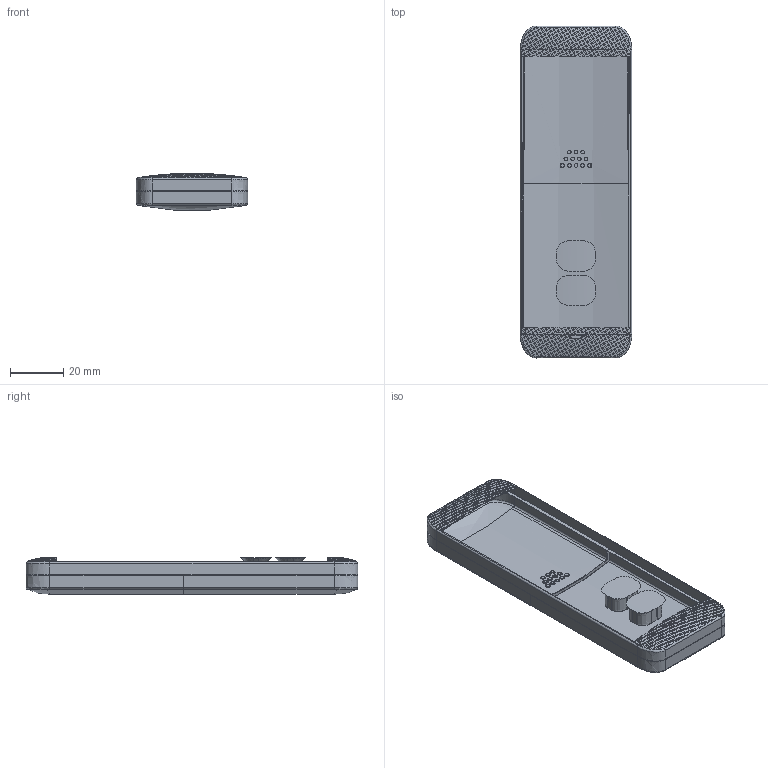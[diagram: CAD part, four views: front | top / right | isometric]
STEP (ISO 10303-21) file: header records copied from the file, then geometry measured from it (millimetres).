
FILE_DESCRIPTION((''),'2;1');
FILE_NAME('TX02','2022-03-11T',('lily'),(''),'PRO/ENGINEER BY PARAMETRIC TECHNOLOGY CORPORATION, 2016360','PRO/ENGINEER BY PARAMETRIC TECHNOLOGY CORPORATION, 2016360','');
FILE_SCHEMA(('CONFIG_CONTROL_DESIGN'));
Length unit declared in the file: millimetre
Products named in the file (1): TX02
Bounding box: 42 x 125 x 14.1 mm (x, y, z)
Volume: 65449.6 mm3; surface area: 18374.5 mm2
Topology: 1 solids, 2 shells, 2392 faces, 5856 edges, 3805 vertices
Faces by surface type: plane 1761, bspline 412, cylinder 174, extrusion 39, cone 4, torus 2
Entity records: 87232 total; most frequent: CARTESIAN_POINT 39295, ORIENTED_EDGE 11700, DIRECTION 6313, EDGE_CURVE 5852, VERTEX_POINT 3803, B_SPLINE_CURVE_WITH_KNOTS 3750, EDGE_LOOP 2732, FACE_OUTER_BOUND 2392
